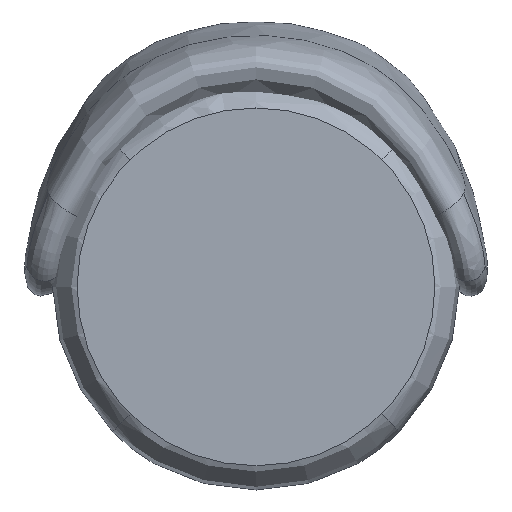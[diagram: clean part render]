
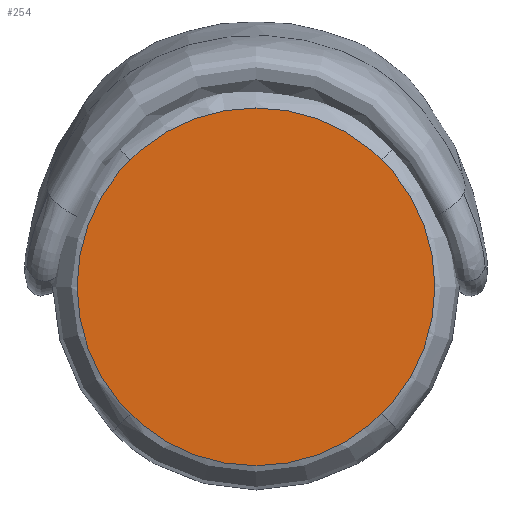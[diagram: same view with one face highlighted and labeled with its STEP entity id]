
A CAD part, front view. The second image highlights one B-rep face of the part: STEP entity #254.
In plain terms, the highlighted planar face has unit normal (0, -1, 0).
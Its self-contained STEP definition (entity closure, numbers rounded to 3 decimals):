
#170 = CARTESIAN_POINT ( 'NONE',  ( 0., 0., 0. ) ) ;
#254 = ADVANCED_FACE ( 'NONE', ( #1379 ), #6198, .T. ) ;
#717 = ORIENTED_EDGE ( 'NONE', *, *, #6352, .F. ) ;
#1379 = FACE_OUTER_BOUND ( 'NONE', #4003, .T. ) ;
#1822 = DIRECTION ( 'NONE',  ( 0., 1., 0. ) ) ;
#1837 = CARTESIAN_POINT ( 'NONE',  ( 0., 0., 280. ) ) ;
#2130 = DIRECTION ( 'NONE',  ( 0., 0., -1. ) ) ;
#2233 = CARTESIAN_POINT ( 'NONE',  ( 0., 0., -280. ) ) ;
#2795 = ORIENTED_EDGE ( 'NONE', *, *, #6824, .F. ) ;
#3361 = DIRECTION ( 'NONE',  ( 0., -1., 0. ) ) ;
#3592 = AXIS2_PLACEMENT_3D ( 'NONE', #5236, #1822, #4558 ) ;
#3885 = CIRCLE ( 'NONE', #6289, 280. ) ;
#4003 = EDGE_LOOP ( 'NONE', ( #2795, #717 ) ) ;
#4558 = DIRECTION ( 'NONE',  ( 0., 0., 1. ) ) ;
#4814 = DIRECTION ( 'NONE',  ( 0., 1., 0. ) ) ;
#4917 = VERTEX_POINT ( 'NONE', #1837 ) ;
#4948 = DIRECTION ( 'NONE',  ( 0., 0., 1. ) ) ;
#5236 = CARTESIAN_POINT ( 'NONE',  ( 0., 0., 0. ) ) ;
#6009 = CIRCLE ( 'NONE', #3592, 280. ) ;
#6198 = PLANE ( 'NONE',  #6415 ) ;
#6289 = AXIS2_PLACEMENT_3D ( 'NONE', #170, #4814, #4948 ) ;
#6352 = EDGE_CURVE ( 'NONE', #6776, #4917, #3885, .T. ) ;
#6415 = AXIS2_PLACEMENT_3D ( 'NONE', #8230, #3361, #2130 ) ;
#6776 = VERTEX_POINT ( 'NONE', #2233 ) ;
#6824 = EDGE_CURVE ( 'NONE', #4917, #6776, #6009, .T. ) ;
#8230 = CARTESIAN_POINT ( 'NONE',  ( 0., 0., 0. ) ) ;
